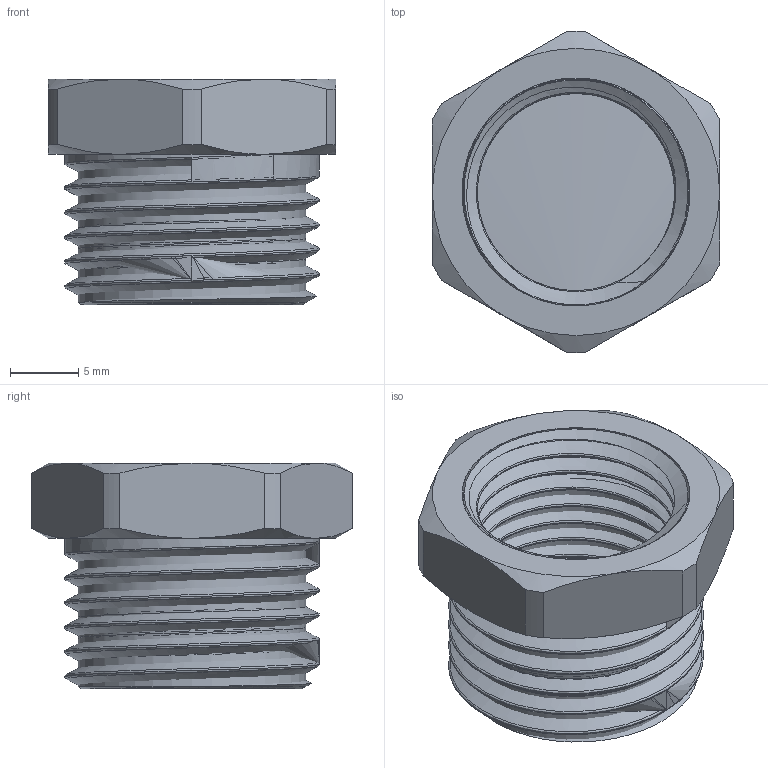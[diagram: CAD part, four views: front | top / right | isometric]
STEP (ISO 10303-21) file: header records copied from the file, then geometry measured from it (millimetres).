
FILE_DESCRIPTION(/* description */ (''),/* implementation_level */ '2;1');
FILE_NAME(/* name */ 'C:\Users\Doom\Desktop\Фадотех\Резьба\PF04C 18.03.2020\PF04C 18.03.2020.stp',/* time_stamp */ '2022-01-14T00:41:47+02:00',/* author */ ('Doom'),/* organization */ (''),/* preprocessor_version */ 'ST-DEVELOPER v18',/* originating_system */ 'Autodesk Inventor 2020',/* authorisation */ '');
FILE_SCHEMA (('AUTOMOTIVE_DESIGN { 1 0 10303 214 3 1 1 }'));
Length unit declared in the file: millimetre
Products named in the file (1): PF04 18.03.2020
Bounding box: 21 x 23.5 x 16.5 mm (x, y, z)
Volume: 2092.2 mm3; surface area: 5324.6 mm2
Topology: 3 solids, 3 shells, 71 faces, 187 edges, 121 vertices
Faces by surface type: cylinder 30, cone 15, plane 14, bspline 12
Full cylindrical faces by diameter (mm): 14.426 x10, 15.94 x1, 16.65 x2, 18.63 x7
Entity records: 10918 total; most frequent: CARTESIAN_POINT 9327, ORIENTED_EDGE 370, DIRECTION 259, EDGE_CURVE 185, VERTEX_POINT 120, AXIS2_PLACEMENT_3D 110, EDGE_LOOP 77, B_SPLINE_CURVE_WITH_KNOTS 72
